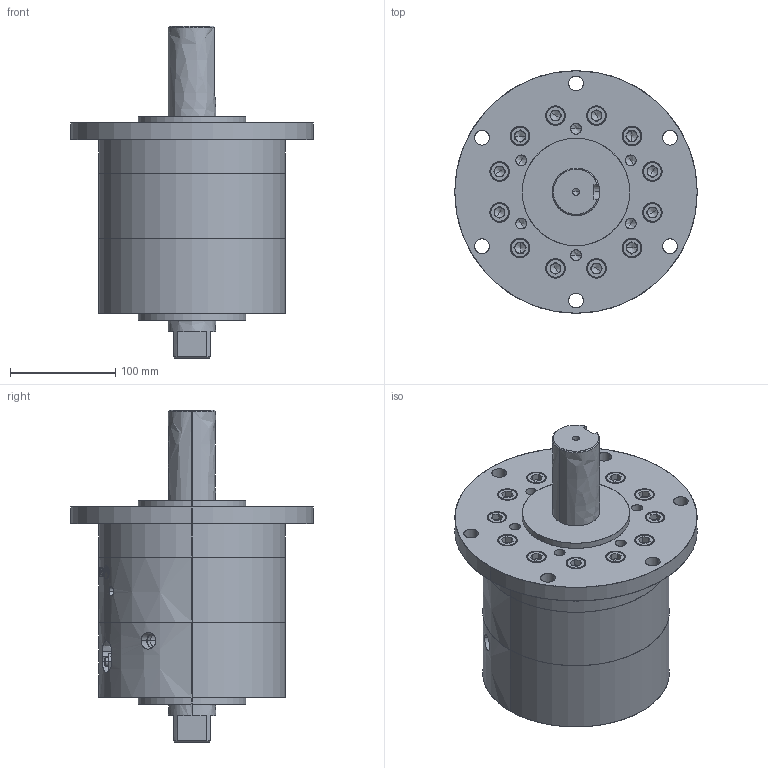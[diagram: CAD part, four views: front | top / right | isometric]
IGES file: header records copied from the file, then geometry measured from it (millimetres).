
Start section: SolidWorks IGES file using analytic representation for surfaces
Global section: file name: C:\Users\Chieh_Lu\Dropbox\¤u§@«Ç\HRN\HRN400S-C.IGS; native system: SolidWorks 2014; preprocessor: SolidWorks 2014; author: Chieh_Lu; date: 160115.010425; units: millimetre
Bounding box: 230 x 230 x 315 mm (x, y, z)
Surface area: 491730.6 mm2 (no closed solid volume)
Topology: 0 solids, 0 shells, 1047 faces, 13608 edges, 13524 vertices
Faces by surface type: bspline 611, revolution 436
